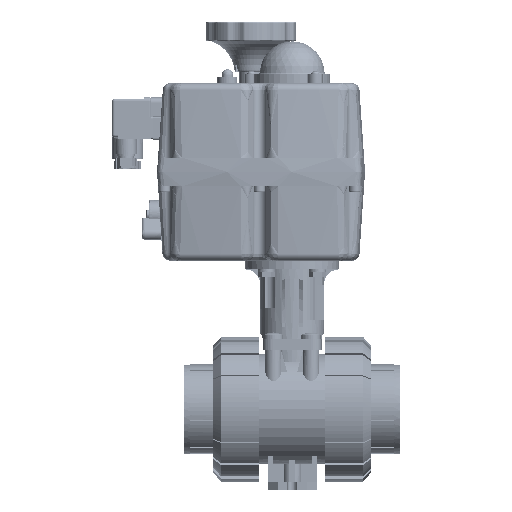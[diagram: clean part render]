
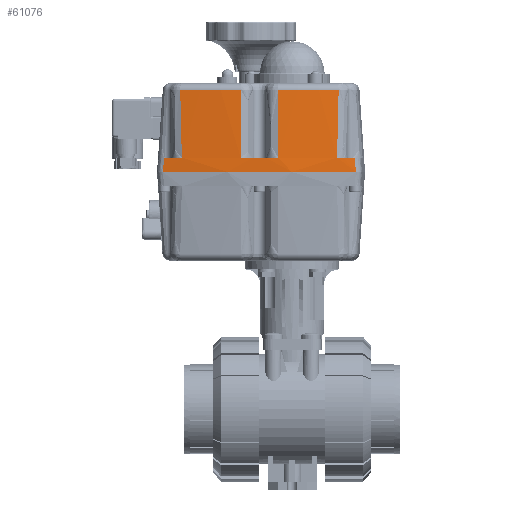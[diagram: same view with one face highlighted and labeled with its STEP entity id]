
A CAD part, front view. The second image highlights one B-rep face of the part: STEP entity #61076.
In plain terms, the highlighted conical face has half-angle 4 degrees and reference radius 403.75 mm.
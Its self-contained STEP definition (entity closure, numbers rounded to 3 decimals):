
#46173=CARTESIAN_POINT('',(-89.468,-49.429,220.5));
#46174=VERTEX_POINT('',#46173);
#46319=CARTESIAN_POINT('',(44.207,-49.429,220.5));
#46320=VERTEX_POINT('',#46319);
#46330=CARTESIAN_POINT('',(-22.63,348.75,220.5));
#46331=DIRECTION('',(0.0,0.0,1.0));
#46332=DIRECTION('',(1.0,0.0,0.0));
#46333=AXIS2_PLACEMENT_3D('',#46330,#46331,#46332);
#46334=CIRCLE('',#46333,403.75);
#46335=EDGE_CURVE('',#46174,#46320,#46334,.T.);
#57694=CARTESIAN_POINT('',(-35.657,-54.09,230.5));
#57695=VERTEX_POINT('',#57694);
#57709=CARTESIAN_POINT('',(-9.603,-54.09,230.5));
#57710=VERTEX_POINT('',#57709);
#57711=CARTESIAN_POINT('',(-22.63,348.75,230.5));
#57712=DIRECTION('',(0.0,0.0,1.0));
#57713=DIRECTION('',(1.0,0.0,0.0));
#57714=AXIS2_PLACEMENT_3D('',#57711,#57712,#57713);
#57715=CIRCLE('',#57714,403.051);
#57716=EDGE_CURVE('',#57695,#57710,#57715,.T.);
#58026=CARTESIAN_POINT('',(43.564,-48.828,230.5));
#58027=VERTEX_POINT('',#58026);
#58041=CARTESIAN_POINT('',(43.564,-48.828,230.5));
#58042=CARTESIAN_POINT('',(43.617,-48.878,229.67));
#58043=CARTESIAN_POINT('',(43.671,-48.928,228.841));
#58044=CARTESIAN_POINT('',(43.885,-49.128,225.507));
#58045=CARTESIAN_POINT('',(44.046,-49.279,223.004));
#58046=CARTESIAN_POINT('',(44.207,-49.429,220.5));
#58047=B_SPLINE_CURVE_WITH_KNOTS('',3,(#58041,#58042,#58043,#58044,#58045,#58046),.UNSPECIFIED.,.F.,.U.,(4,2,4),(5.021,7.52,15.06),.UNSPECIFIED.);
#58048=EDGE_CURVE('',#58027,#46320,#58047,.T.);
#58079=CARTESIAN_POINT('',(31.184,-50.692,230.5));
#58080=VERTEX_POINT('',#58079);
#58094=CARTESIAN_POINT('',(-22.63,348.75,230.5));
#58095=DIRECTION('',(0.0,0.0,1.0));
#58096=DIRECTION('',(1.0,0.0,0.0));
#58097=AXIS2_PLACEMENT_3D('',#58094,#58095,#58096);
#58098=CIRCLE('',#58097,403.051);
#58099=EDGE_CURVE('',#58080,#58027,#58098,.T.);
#58177=CARTESIAN_POINT('',(-88.761,-48.838,230.5));
#58178=VERTEX_POINT('',#58177);
#58192=CARTESIAN_POINT('',(-76.444,-50.692,230.5));
#58193=VERTEX_POINT('',#58192);
#58194=CARTESIAN_POINT('',(-22.63,348.75,230.5));
#58195=DIRECTION('',(0.0,0.0,1.0));
#58196=DIRECTION('',(1.0,0.0,0.0));
#58197=AXIS2_PLACEMENT_3D('',#58194,#58195,#58196);
#58198=CIRCLE('',#58197,403.051);
#58199=EDGE_CURVE('',#58178,#58193,#58198,.T.);
#58276=CARTESIAN_POINT('',(-89.468,-49.429,220.5));
#58277=CARTESIAN_POINT('',(-89.291,-49.281,223.003));
#58278=CARTESIAN_POINT('',(-89.114,-49.134,225.507));
#58279=CARTESIAN_POINT('',(-88.879,-48.937,228.84));
#58280=CARTESIAN_POINT('',(-88.82,-48.887,229.67));
#58281=CARTESIAN_POINT('',(-88.761,-48.838,230.5));
#58282=B_SPLINE_CURVE_WITH_KNOTS('',3,(#58276,#58277,#58278,#58279,#58280,#58281),.UNSPECIFIED.,.F.,.U.,(4,2,4),(5.024,12.566,15.066),.UNSPECIFIED.);
#58283=EDGE_CURVE('',#46174,#58178,#58282,.T.);
#60976=CARTESIAN_POINT('',(-77.54,-47.236,277.349));
#60977=VERTEX_POINT('',#60976);
#60993=CARTESIAN_POINT('',(-76.444,-50.692,230.5));
#60994=CARTESIAN_POINT('',(-76.468,-50.556,232.384));
#60995=CARTESIAN_POINT('',(-76.494,-50.419,234.269));
#60996=CARTESIAN_POINT('',(-76.556,-50.114,238.48));
#60997=CARTESIAN_POINT('',(-76.594,-49.944,240.807));
#60998=CARTESIAN_POINT('',(-76.662,-49.668,244.588));
#60999=CARTESIAN_POINT('',(-76.69,-49.562,246.042));
#61000=CARTESIAN_POINT('',(-76.783,-49.218,250.743));
#61001=CARTESIAN_POINT('',(-76.856,-48.979,253.99));
#61002=CARTESIAN_POINT('',(-77.064,-48.355,262.43));
#61003=CARTESIAN_POINT('',(-77.212,-47.968,267.623));
#61004=CARTESIAN_POINT('',(-77.434,-47.464,274.327));
#61005=CARTESIAN_POINT('',(-77.486,-47.35,275.838));
#61006=CARTESIAN_POINT('',(-77.54,-47.236,277.349));
#61007=B_SPLINE_CURVE_WITH_KNOTS('',3,(#60993,#60994,#60995,#60996,#60997,#60998,#60999,#61000,#61001,#61002,#61003,#61004,#61005,#61006),.UNSPECIFIED.,.F.,.U.,(4,2,2,2,2,2,4),(13.199,18.868,25.868,30.243,40.011,55.639,60.188),.UNSPECIFIED.);
#61008=EDGE_CURVE('',#58193,#60977,#61007,.T.);
#61013=CARTESIAN_POINT('',(-22.63,348.75,220.5));
#61014=DIRECTION('',(0.,0.,-1.0));
#61015=DIRECTION('',(1.0,0.0,0.0));
#61016=AXIS2_PLACEMENT_3D('',#61013,#61014,#61015);
#61017=CONICAL_SURFACE('',#61016,403.75,4.);
#61018=CARTESIAN_POINT('',(-9.601,-50.812,277.349));
#61019=VERTEX_POINT('',#61018);
#61020=CARTESIAN_POINT('',(32.28,-47.236,277.349));
#61021=VERTEX_POINT('',#61020);
#61022=CARTESIAN_POINT('',(-22.63,348.75,277.349));
#61023=DIRECTION('',(0.,0.,1.0));
#61024=DIRECTION('',(0.085,-0.996,0.));
#61025=AXIS2_PLACEMENT_3D('',#61022,#61023,#61024);
#61026=CIRCLE('',#61025,399.775);
#61027=EDGE_CURVE('',#61019,#61021,#61026,.T.);
#61028=ORIENTED_EDGE('',*,*,#61027,.F.);
#61029=CARTESIAN_POINT('',(-9.603,-54.09,230.5));
#61030=DIRECTION('',(0.,0.07,0.998));
#61031=VECTOR('',#61030,46.963);
#61032=LINE('',#61029,#61031);
#61033=EDGE_CURVE('',#57710,#61019,#61032,.T.);
#61034=ORIENTED_EDGE('',*,*,#61033,.F.);
#61035=ORIENTED_EDGE('',*,*,#57716,.F.);
#61036=CARTESIAN_POINT('',(-35.659,-50.812,277.349));
#61037=VERTEX_POINT('',#61036);
#61038=CARTESIAN_POINT('',(-35.659,-50.812,277.349));
#61039=DIRECTION('',(0.,-0.07,-0.998));
#61040=VECTOR('',#61039,46.963);
#61041=LINE('',#61038,#61040);
#61042=EDGE_CURVE('',#61037,#57695,#61041,.T.);
#61043=ORIENTED_EDGE('',*,*,#61042,.F.);
#61044=CARTESIAN_POINT('',(-22.63,348.75,277.349));
#61045=DIRECTION('',(0.,0.,1.0));
#61046=DIRECTION('',(-0.085,-0.996,0.));
#61047=AXIS2_PLACEMENT_3D('',#61044,#61045,#61046);
#61048=CIRCLE('',#61047,399.775);
#61049=EDGE_CURVE('',#60977,#61037,#61048,.T.);
#61050=ORIENTED_EDGE('',*,*,#61049,.F.);
#61051=ORIENTED_EDGE('',*,*,#61008,.F.);
#61052=ORIENTED_EDGE('',*,*,#58199,.F.);
#61053=ORIENTED_EDGE('',*,*,#58283,.F.);
#61054=ORIENTED_EDGE('',*,*,#46335,.T.);
#61055=ORIENTED_EDGE('',*,*,#58048,.F.);
#61056=ORIENTED_EDGE('',*,*,#58099,.F.);
#61057=CARTESIAN_POINT('',(32.28,-47.236,277.349));
#61058=CARTESIAN_POINT('',(32.159,-47.491,273.973));
#61059=CARTESIAN_POINT('',(32.049,-47.744,270.598));
#61060=CARTESIAN_POINT('',(31.879,-48.168,264.922));
#61061=CARTESIAN_POINT('',(31.814,-48.34,262.621));
#61062=CARTESIAN_POINT('',(31.716,-48.617,258.883));
#61063=CARTESIAN_POINT('',(31.68,-48.723,257.446));
#61064=CARTESIAN_POINT('',(31.568,-49.069,252.762));
#61065=CARTESIAN_POINT('',(31.497,-49.308,249.515));
#61066=CARTESIAN_POINT('',(31.334,-49.926,241.073));
#61067=CARTESIAN_POINT('',(31.252,-50.303,235.878));
#61068=CARTESIAN_POINT('',(31.186,-50.683,230.621));
#61069=CARTESIAN_POINT('',(31.185,-50.688,230.561));
#61070=CARTESIAN_POINT('',(31.184,-50.692,230.5));
#61071=B_SPLINE_CURVE_WITH_KNOTS('',3,(#61057,#61058,#61059,#61060,#61061,#61062,#61063,#61064,#61065,#61066,#61067,#61068,#61069,#61070),.UNSPECIFIED.,.F.,.U.,(4,2,2,2,2,2,4),(17.956,28.117,35.039,39.365,49.133,64.762,64.945),.UNSPECIFIED.);
#61072=EDGE_CURVE('',#61021,#58080,#61071,.T.);
#61073=ORIENTED_EDGE('',*,*,#61072,.F.);
#61074=EDGE_LOOP('',(#61028,#61034,#61035,#61043,#61050,#61051,#61052,#61053,#61054,#61055,#61056,#61073));
#61075=FACE_OUTER_BOUND('',#61074,.T.);
#61076=ADVANCED_FACE('',(#61075),#61017,.T.);
